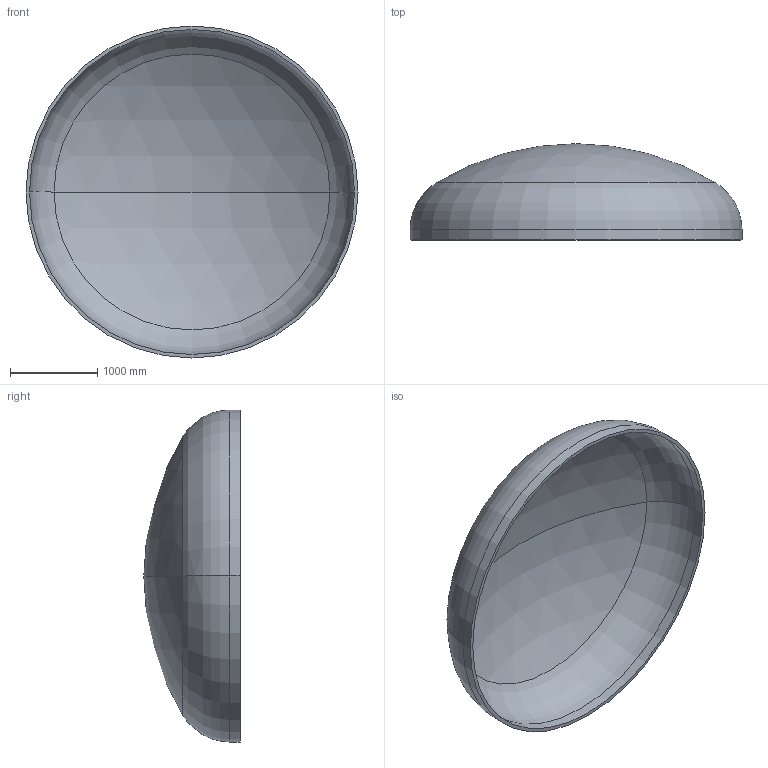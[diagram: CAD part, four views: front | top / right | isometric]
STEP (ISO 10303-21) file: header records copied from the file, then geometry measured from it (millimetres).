
FILE_DESCRIPTION (( 'STEP AP203' ), '1' );
FILE_NAME ('DIN 28013 Korbbogenform_-_Boden DIN 28013 - 3800 x 120 - I - s=40.step', '2016-07-01T21:22:41', ( '' ), ( '' ), 'SwSTEP 2.0', 'SolidWorks 2013', '' );
FILE_SCHEMA (( 'CONFIG_CONTROL_DESIGN' ));
Length unit declared in the file: millimetre
Products named in the file (1): DIN 28013 Korbbogenform_-_Boden DIN 28013 - 3800 x 120 - I - s=40
Bounding box: 3800 x 1102.05 x 3800 mm (x, y, z)
Volume: 676265396.9 mm3; surface area: 34289104 mm2
Topology: 1 solids, 1 shells, 13 faces, 24 edges, 14 vertices
Faces by surface type: torus 4, cylinder 4, sphere 4, plane 1
Entity records: 407 total; most frequent: DIRECTION 72, CARTESIAN_POINT 52, ORIENTED_EDGE 48, AXIS2_PLACEMENT_3D 34, EDGE_CURVE 24, CIRCLE 20, EDGE_LOOP 14, VERTEX_POINT 14
